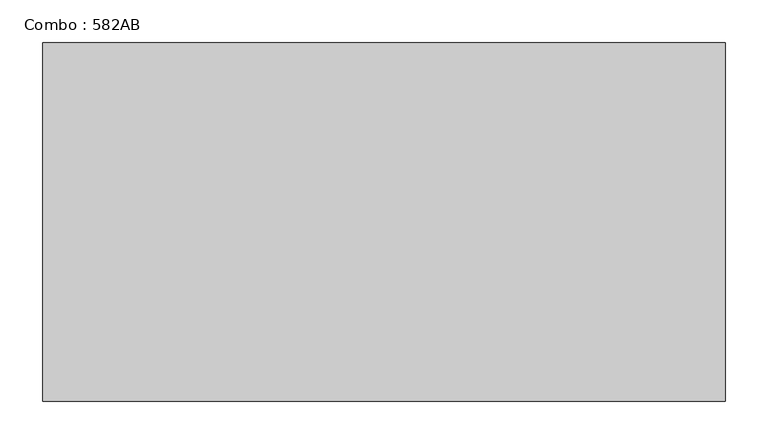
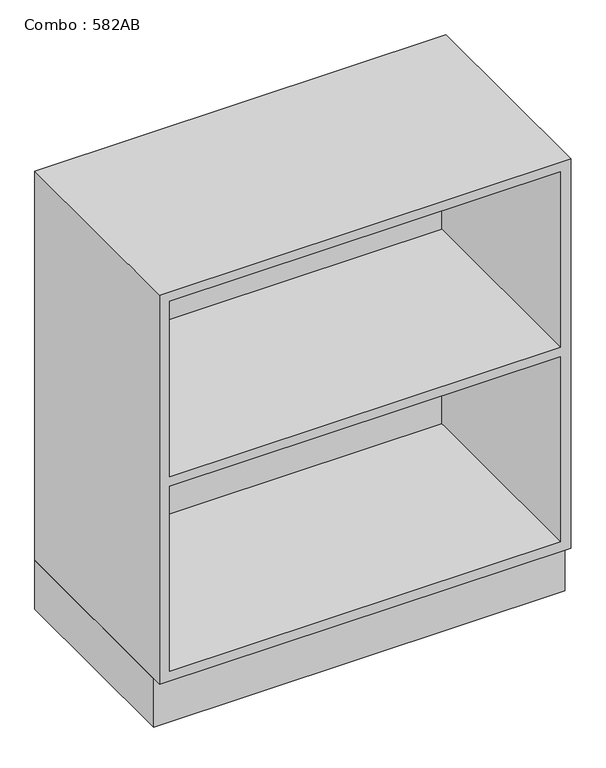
"""IFC4 building model written with IfcOpenShell, lengths in millimetres: furniture geometry, Combo : 582AB."""

from ifc_helpers import new_model, si_unit, origin, origin_with_axes, place, context, project, spatial, polyline, outline, extrude, faceted_brep, source, transform, mapped, element, save


def combo_582ab_0a20db7f(model_context):
    return source(origin(), model_context, "Body", "SolidModel", [
        extrude(outline(polyline([(-400.0, -400.0), (-400.0, 0.0), (400.0, 0.0), (400.0, -400.0), (-400.0, -400.0)])), origin_with_axes(), (0.0, 0.0, 1.0), 100.0),
        faceted_brep([(400.0, 0.0, 900.0), (-400.0, 0.0, 900.0), (-400.0, -420.0, 900.0), (400.0, -420.0, 900.0), (-400.0, 0.0, 100.0), (400.0, 0.0, 100.0), (400.0, -420.0, 100.0), (-400.0, -420.0, 100.0), (380.0, -420.0, 120.0), (-380.0, -420.0, 120.0), (-380.0, -420.0, 500.0), (380.0, -420.0, 500.0), (380.0, -420.0, 520.0), (-380.0, -420.0, 520.0), (-380.0, -420.0, 880.0), (380.0, -420.0, 880.0), (380.0, -20.0, 120.0), (-380.0, -20.0, 120.0), (380.0, -20.0, 520.0), (-380.0, -20.0, 520.0), (380.0, -20.0, 500.0), (-380.0, -20.0, 500.0), (380.0, -20.0, 880.0), (-380.0, -20.0, 880.0)], [[[0, 1, 2, 3]], [[4, 5, 6, 7]], [[1, 0, 5, 4]], [[2, 1, 4, 7]], [[3, 2, 7, 6], [8, 9, 10, 11], [12, 13, 14, 15]], [[0, 3, 6, 5]], [[16, 17, 9, 8]], [[18, 19, 13, 12]], [[16, 20, 21, 17]], [[20, 16, 8, 11]], [[21, 20, 11, 10]], [[17, 21, 10, 9]], [[18, 22, 23, 19]], [[22, 18, 12, 15]], [[23, 22, 15, 14]], [[19, 23, 14, 13]]]),
    ])


if __name__ == "__main__":
    model = new_model("IFC4")
    model_context = context("Model", 3, world=origin())
    ifc_project = project(units=[si_unit("LENGTHUNIT", "METRE", prefix="MILLI")], contexts=[model_context])
    site = spatial("IfcSite", under=ifc_project)
    building = spatial("IfcBuilding", under=site)
    placement = place(None, origin())
    combo_582ab_shape = combo_582ab_0a20db7f(model_context)
    element("IfcFurniture", 1, ObjectType="Combo : 582AB", at=placement, inside=building, context=model_context, shape_type="MappedRepresentation", body=[
        mapped(combo_582ab_shape, transform((0.0, 0.0, 0.0), x_axis=(1.0, 0.0, 0.0), y_axis=(0.0, 1.0, 0.0), z_axis=(0.0, 0.0, 1.0))),
    ])
    save(model, "model.ifc")
